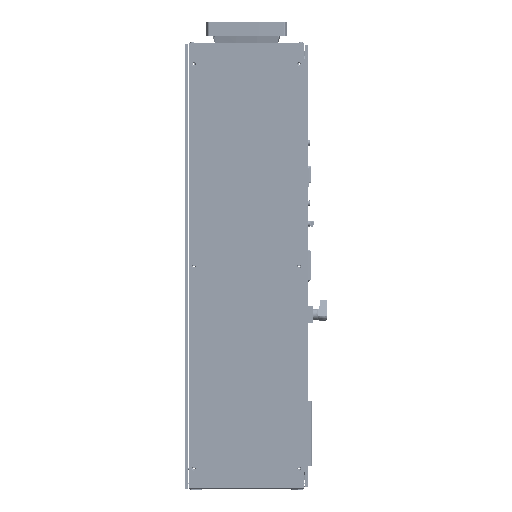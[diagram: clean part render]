
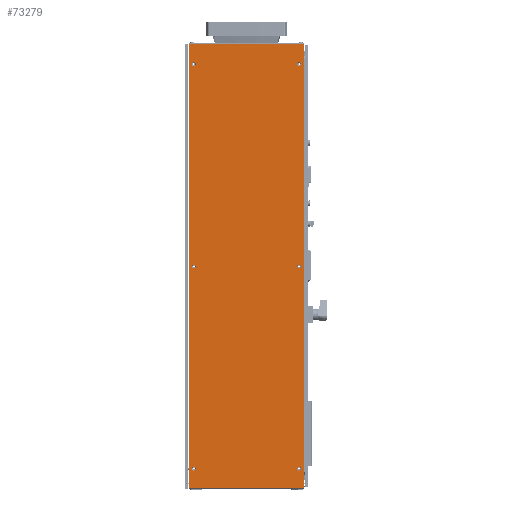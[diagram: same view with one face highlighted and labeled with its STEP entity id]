
A CAD part, left-side view. The second image highlights one B-rep face of the part: STEP entity #73279.
In plain terms, the highlighted planar face has unit normal (-1, 0, 0) as drawn and (0, 0, -1) by its records, which use the part's own axes.
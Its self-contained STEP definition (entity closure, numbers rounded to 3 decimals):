
#72526 = EDGE_CURVE('',#72527,#72527,#72529,.T.);
#72527 = VERTEX_POINT('',#72528);
#72528 = CARTESIAN_POINT('',(260.5,1089.15,0.));
#72529 = CIRCLE('',#72530,9.35);
#72530 = AXIS2_PLACEMENT_3D('',#72531,#72532,#72533);
#72531 = CARTESIAN_POINT('',(260.5,1098.5,0.));
#72532 = DIRECTION('',(0.,0.,1.));
#72533 = DIRECTION('',(0.,-1.,0.));
#72713 = EDGE_CURVE('',#72714,#72714,#72716,.T.);
#72714 = VERTEX_POINT('',#72715);
#72715 = CARTESIAN_POINT('',(-260.5,2089.15,0.));
#72716 = CIRCLE('',#72717,9.35);
#72717 = AXIS2_PLACEMENT_3D('',#72718,#72719,#72720);
#72718 = CARTESIAN_POINT('',(-260.5,2098.5,0.));
#72719 = DIRECTION('',(0.,0.,1.));
#72720 = DIRECTION('',(0.,-1.,0.));
#72874 = EDGE_CURVE('',#72875,#72875,#72877,.T.);
#72875 = VERTEX_POINT('',#72876);
#72876 = CARTESIAN_POINT('',(260.5,2089.15,0.));
#72877 = CIRCLE('',#72878,9.35);
#72878 = AXIS2_PLACEMENT_3D('',#72879,#72880,#72881);
#72879 = CARTESIAN_POINT('',(260.5,2098.5,0.));
#72880 = DIRECTION('',(0.,0.,1.));
#72881 = DIRECTION('',(0.,-1.,0.));
#73022 = EDGE_CURVE('',#73023,#73025,#73027,.T.);
#73023 = VERTEX_POINT('',#73024);
#73024 = CARTESIAN_POINT('',(-283.75,2196.,0.));
#73025 = VERTEX_POINT('',#73026);
#73026 = CARTESIAN_POINT('',(-283.75,1.,0.));
#73027 = LINE('',#73028,#73029);
#73028 = CARTESIAN_POINT('',(-283.75,1.,0.));
#73029 = VECTOR('',#73030,1.);
#73030 = DIRECTION('',(0.,-1.,0.));
#73258 = EDGE_CURVE('',#73023,#73259,#73261,.T.);
#73259 = VERTEX_POINT('',#73260);
#73260 = CARTESIAN_POINT('',(283.75,2196.,0.));
#73261 = LINE('',#73262,#73263);
#73262 = CARTESIAN_POINT('',(0.,2196.,0.));
#73263 = VECTOR('',#73264,1.);
#73264 = DIRECTION('',(1.,0.,0.));
#73279 = ADVANCED_FACE('',(#73280,#73298,#73309,#73312,#73323,#73326,
    #73337),#73340,.T.);
#73280 = FACE_BOUND('',#73281,.T.);
#73281 = EDGE_LOOP('',(#73282,#73283,#73284,#73292));
#73282 = ORIENTED_EDGE('',*,*,#73022,.F.);
#73283 = ORIENTED_EDGE('',*,*,#73258,.T.);
#73284 = ORIENTED_EDGE('',*,*,#73285,.F.);
#73285 = EDGE_CURVE('',#73286,#73259,#73288,.T.);
#73286 = VERTEX_POINT('',#73287);
#73287 = CARTESIAN_POINT('',(283.75,1.,0.));
#73288 = LINE('',#73289,#73290);
#73289 = CARTESIAN_POINT('',(283.75,1.,0.));
#73290 = VECTOR('',#73291,1.);
#73291 = DIRECTION('',(0.,1.,0.));
#73292 = ORIENTED_EDGE('',*,*,#73293,.F.);
#73293 = EDGE_CURVE('',#73025,#73286,#73294,.T.);
#73294 = LINE('',#73295,#73296);
#73295 = CARTESIAN_POINT('',(0.,1.,0.));
#73296 = VECTOR('',#73297,1.);
#73297 = DIRECTION('',(1.,0.,0.));
#73298 = FACE_BOUND('',#73299,.T.);
#73299 = EDGE_LOOP('',(#73300));
#73300 = ORIENTED_EDGE('',*,*,#73301,.T.);
#73301 = EDGE_CURVE('',#73302,#73302,#73304,.T.);
#73302 = VERTEX_POINT('',#73303);
#73303 = CARTESIAN_POINT('',(-260.5,1089.15,0.));
#73304 = CIRCLE('',#73305,9.35);
#73305 = AXIS2_PLACEMENT_3D('',#73306,#73307,#73308);
#73306 = CARTESIAN_POINT('',(-260.5,1098.5,0.));
#73307 = DIRECTION('',(0.,0.,1.));
#73308 = DIRECTION('',(0.,-1.,0.));
#73309 = FACE_BOUND('',#73310,.T.);
#73310 = EDGE_LOOP('',(#73311));
#73311 = ORIENTED_EDGE('',*,*,#72526,.T.);
#73312 = FACE_BOUND('',#73313,.T.);
#73313 = EDGE_LOOP('',(#73314));
#73314 = ORIENTED_EDGE('',*,*,#73315,.T.);
#73315 = EDGE_CURVE('',#73316,#73316,#73318,.T.);
#73316 = VERTEX_POINT('',#73317);
#73317 = CARTESIAN_POINT('',(-260.5,89.15,0.));
#73318 = CIRCLE('',#73319,9.35);
#73319 = AXIS2_PLACEMENT_3D('',#73320,#73321,#73322);
#73320 = CARTESIAN_POINT('',(-260.5,98.5,0.));
#73321 = DIRECTION('',(0.,0.,1.));
#73322 = DIRECTION('',(0.,-1.,0.));
#73323 = FACE_BOUND('',#73324,.T.);
#73324 = EDGE_LOOP('',(#73325));
#73325 = ORIENTED_EDGE('',*,*,#72713,.T.);
#73326 = FACE_BOUND('',#73327,.T.);
#73327 = EDGE_LOOP('',(#73328));
#73328 = ORIENTED_EDGE('',*,*,#73329,.T.);
#73329 = EDGE_CURVE('',#73330,#73330,#73332,.T.);
#73330 = VERTEX_POINT('',#73331);
#73331 = CARTESIAN_POINT('',(260.5,89.15,0.));
#73332 = CIRCLE('',#73333,9.35);
#73333 = AXIS2_PLACEMENT_3D('',#73334,#73335,#73336);
#73334 = CARTESIAN_POINT('',(260.5,98.5,0.));
#73335 = DIRECTION('',(0.,0.,1.));
#73336 = DIRECTION('',(0.,-1.,0.));
#73337 = FACE_BOUND('',#73338,.T.);
#73338 = EDGE_LOOP('',(#73339));
#73339 = ORIENTED_EDGE('',*,*,#72874,.T.);
#73340 = PLANE('',#73341);
#73341 = AXIS2_PLACEMENT_3D('',#73342,#73343,#73344);
#73342 = CARTESIAN_POINT('',(0.,1.,0.));
#73343 = DIRECTION('',(0.,0.,-1.));
#73344 = DIRECTION('',(0.,1.,0.));
